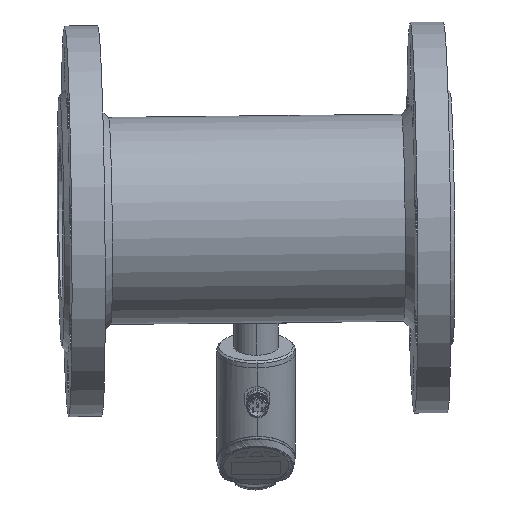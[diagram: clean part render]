
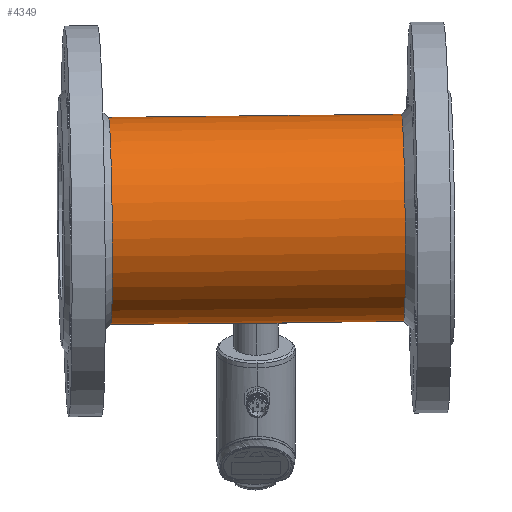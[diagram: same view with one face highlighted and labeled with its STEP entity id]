
A CAD part, front view. The second image highlights one B-rep face of the part: STEP entity #4349.
In plain terms, the highlighted cylindrical face has radius 53 mm (diameter 106 mm), a partial arc.
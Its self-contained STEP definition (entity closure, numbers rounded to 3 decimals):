
#712 = CARTESIAN_POINT ( 'NONE',  ( -75., 0., -53. ) ) ;
#826 = ORIENTED_EDGE ( 'NONE', *, *, #18938, .T. ) ;
#1295 = LINE ( 'NONE', #18977, #8230 ) ;
#1592 = CARTESIAN_POINT ( 'NONE',  ( -75., 0., 53. ) ) ;
#2645 = VERTEX_POINT ( 'NONE', #6047 ) ;
#2649 = DIRECTION ( 'NONE',  ( 1., 0., 0. ) ) ;
#3708 = DIRECTION ( 'NONE',  ( 1., 0., 0. ) ) ;
#4071 = DIRECTION ( 'NONE',  ( -1., 0., 0. ) ) ;
#4229 = FACE_OUTER_BOUND ( 'NONE', #12546, .T. ) ;
#4349 = ADVANCED_FACE ( 'NONE', ( #4229 ), #4421, .T. ) ;
#4421 = CYLINDRICAL_SURFACE ( 'NONE', #16013, 53. ) ;
#4722 = AXIS2_PLACEMENT_3D ( 'NONE', #10160, #4071, #15855 ) ;
#5884 = ORIENTED_EDGE ( 'NONE', *, *, #15993, .T. ) ;
#6047 = CARTESIAN_POINT ( 'NONE',  ( 75., 0., -53. ) ) ;
#7832 = VERTEX_POINT ( 'NONE', #712 ) ;
#8230 = VECTOR ( 'NONE', #2649, 1000. ) ;
#8866 = DIRECTION ( 'NONE',  ( 1., 0., 0. ) ) ;
#9372 = ORIENTED_EDGE ( 'NONE', *, *, #18498, .F. ) ;
#9422 = DIRECTION ( 'NONE',  ( 1., 0., 0. ) ) ;
#9767 = AXIS2_PLACEMENT_3D ( 'NONE', #13764, #3708, #15305 ) ;
#10160 = CARTESIAN_POINT ( 'NONE',  ( 75., 0., 0. ) ) ;
#10404 = CARTESIAN_POINT ( 'NONE',  ( -100., 0., 0. ) ) ;
#11286 = ORIENTED_EDGE ( 'NONE', *, *, #18936, .T. ) ;
#12222 = VECTOR ( 'NONE', #9422, 1000. ) ;
#12546 = EDGE_LOOP ( 'NONE', ( #9372, #826, #11286, #5884 ) ) ;
#13113 = DIRECTION ( 'NONE',  ( 0., 0., -1. ) ) ;
#13764 = CARTESIAN_POINT ( 'NONE',  ( -75., 0., 0. ) ) ;
#14342 = VERTEX_POINT ( 'NONE', #1592 ) ;
#14578 = CIRCLE ( 'NONE', #4722, 53. ) ;
#14856 = VERTEX_POINT ( 'NONE', #16137 ) ;
#15305 = DIRECTION ( 'NONE',  ( 0., 0., 1. ) ) ;
#15855 = DIRECTION ( 'NONE',  ( 0., 0., -1. ) ) ;
#15993 = EDGE_CURVE ( 'NONE', #2645, #14856, #14578, .T. ) ;
#16013 = AXIS2_PLACEMENT_3D ( 'NONE', #10404, #8866, #13113 ) ;
#16137 = CARTESIAN_POINT ( 'NONE',  ( 75., 0., 53. ) ) ;
#16940 = LINE ( 'NONE', #18109, #12222 ) ;
#17776 = CIRCLE ( 'NONE', #9767, 53. ) ;
#18109 = CARTESIAN_POINT ( 'NONE',  ( -100., 0., -53. ) ) ;
#18498 = EDGE_CURVE ( 'NONE', #14342, #14856, #1295, .T. ) ;
#18936 = EDGE_CURVE ( 'NONE', #7832, #2645, #16940, .T. ) ;
#18938 = EDGE_CURVE ( 'NONE', #14342, #7832, #17776, .T. ) ;
#18977 = CARTESIAN_POINT ( 'NONE',  ( -100., 0., 53. ) ) ;
